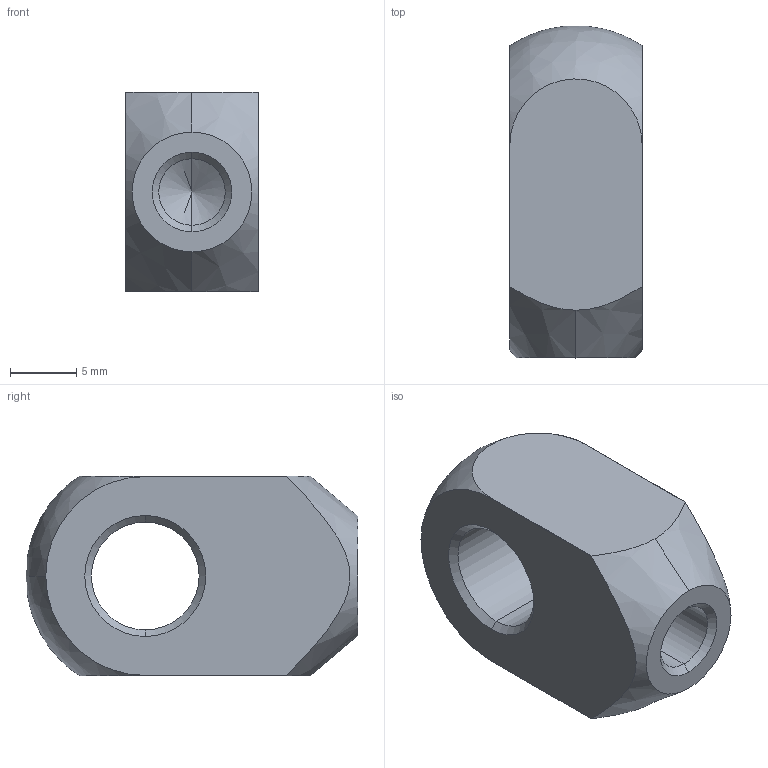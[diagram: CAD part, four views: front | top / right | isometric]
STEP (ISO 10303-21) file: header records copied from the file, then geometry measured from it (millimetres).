
FILE_DESCRIPTION (( 'STEP AP214' ), '1' );
FILE_NAME ('18.06A1FASE.STEP', '2017-10-21T11:14:26', ( '' ), ( '' ), 'SwSTEP 2.0', 'SolidWorks 2016', '' );
FILE_SCHEMA (( 'AUTOMOTIVE_DESIGN' ));
Length unit declared in the file: millimetre
Products named in the file (1): 18.06A1FASE
Bounding box: 10 x 24.97 x 15 mm (x, y, z)
Volume: 2615.8 mm3; surface area: 1555.5 mm2
Topology: 1 solids, 1 shells, 25 faces, 61 edges, 37 vertices
Faces by surface type: cone 10, cylinder 8, plane 5, bspline 2
Entity records: 934 total; most frequent: CARTESIAN_POINT 316, DIRECTION 128, ORIENTED_EDGE 118, EDGE_CURVE 59, AXIS2_PLACEMENT_3D 53, VERTEX_POINT 37, CIRCLE 29, EDGE_LOOP 28
